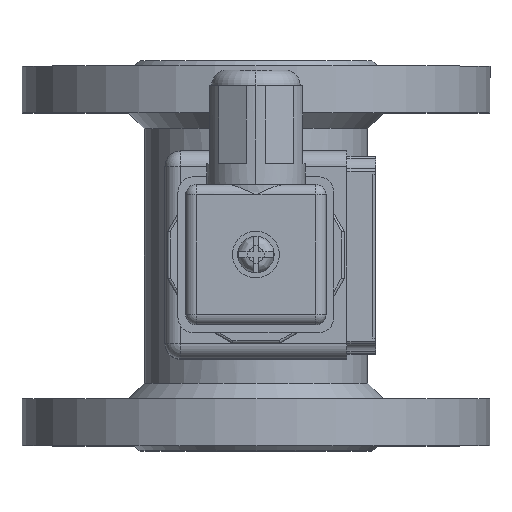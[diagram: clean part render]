
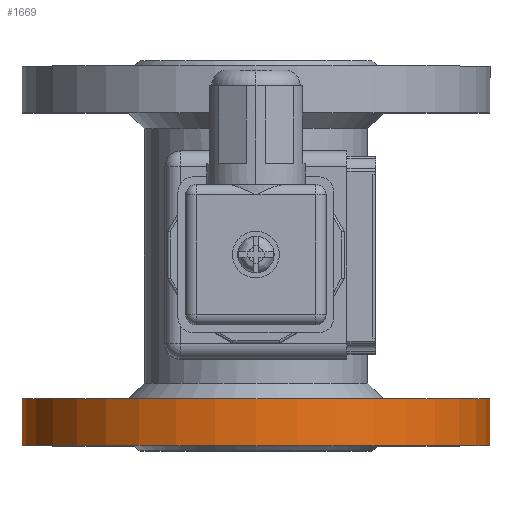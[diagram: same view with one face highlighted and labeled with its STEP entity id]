
A CAD part, top view. The second image highlights one B-rep face of the part: STEP entity #1669.
In plain terms, the highlighted cylindrical face has radius 45 mm (diameter 90 mm), a full revolution.
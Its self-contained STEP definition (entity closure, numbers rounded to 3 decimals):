
#341=FACE_BOUND('',#2916,.T.);
#342=FACE_BOUND('',#2917,.T.);
#1669=ADVANCED_FACE('',(#341,#342),#1842,.T.);
#1842=CYLINDRICAL_SURFACE('',#10562,45.);
#2916=EDGE_LOOP('',(#7083));
#2917=EDGE_LOOP('',(#7084));
#7083=ORIENTED_EDGE('',*,*,#9474,.F.);
#7084=ORIENTED_EDGE('',*,*,#9475,.T.);
#8094=VERTEX_POINT('',#19450);
#8095=VERTEX_POINT('',#19452);
#9474=EDGE_CURVE('',#8094,#8094,#9824,.T.);
#9475=EDGE_CURVE('',#8095,#8095,#9825,.T.);
#9824=CIRCLE('',#10560,45.);
#9825=CIRCLE('',#10561,45.);
#10560=AXIS2_PLACEMENT_3D('',#19449,#12803,#12804);
#10561=AXIS2_PLACEMENT_3D('',#19451,#12805,#12806);
#10562=AXIS2_PLACEMENT_3D('',#19453,#12807,#12808);
#12803=DIRECTION('',(0.,1.,0.));
#12804=DIRECTION('',(1.,0.,0.));
#12805=DIRECTION('',(0.,1.,0.));
#12806=DIRECTION('',(1.,0.,0.));
#12807=DIRECTION('',(0.,-1.,0.));
#12808=DIRECTION('',(-1.,0.,0.));
#19449=CARTESIAN_POINT('',(25.516,8.9,-113.5));
#19450=CARTESIAN_POINT('',(70.516,8.9,-113.5));
#19451=CARTESIAN_POINT('',(25.516,-0.1,-113.5));
#19452=CARTESIAN_POINT('',(70.516,-0.1,-113.5));
#19453=CARTESIAN_POINT('',(25.516,8.9,-113.5));
